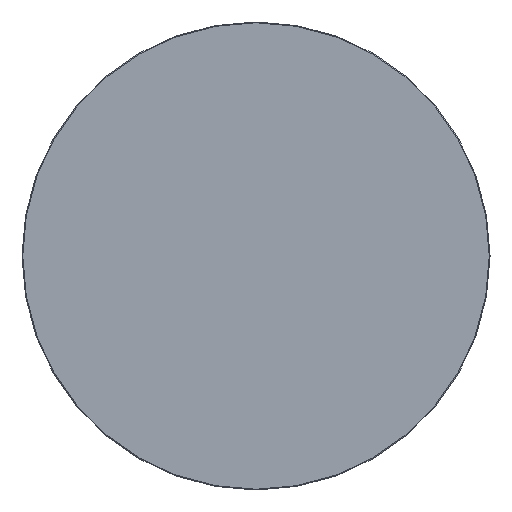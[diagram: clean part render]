
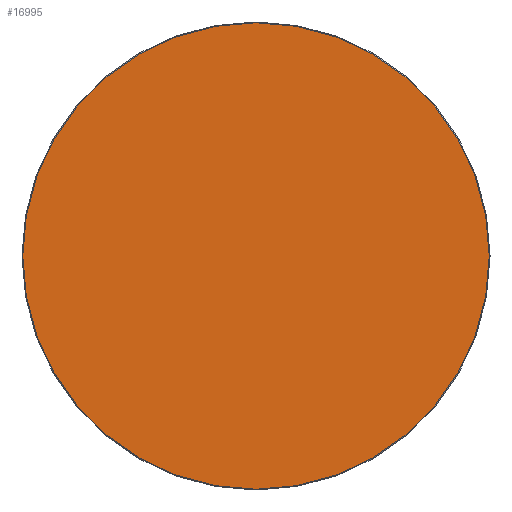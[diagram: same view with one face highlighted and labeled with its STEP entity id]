
A CAD part, top view. The second image highlights one B-rep face of the part: STEP entity #16995.
In plain terms, the highlighted planar face has unit normal (0, 0, 1).
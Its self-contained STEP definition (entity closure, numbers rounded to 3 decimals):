
#16920=CARTESIAN_POINT('',(0.,0.,20.));
#16921=DIRECTION('',(1.,0.,0.));
#16922=DIRECTION('',(0.,0.,1.));
#16923=AXIS2_PLACEMENT_3D('',#16920,#16922,#16921);
#16924=PLANE('',#16923);
#16925=CARTESIAN_POINT('',(-0.5,-448.5,20.));
#16926=VERTEX_POINT('',#16925);
#16927=CARTESIAN_POINT('',(0.5,-448.5,20.));
#16928=VERTEX_POINT('',#16927);
#16929=CARTESIAN_POINT('',(-0.5,-448.5,20.));
#16930=DIRECTION('',(1.,0.,0.));
#16931=VECTOR('',#16930,1.);
#16932=LINE('',#16929,#16931);
#16933=EDGE_CURVE('',#16926,#16928,#16932,.T.);
#16934=ORIENTED_EDGE('E105',*,*,#16933,.T.);
#16935=CARTESIAN_POINT('',(448.5,-0.5,20.));
#16936=VERTEX_POINT('',#16935);
#16937=CARTESIAN_POINT('',(0.5,-0.5,20.));
#16938=DIRECTION('',(0.,-1.,0.));
#16939=DIRECTION('',(0.,-0.,1.));
#16940=AXIS2_PLACEMENT_3D('',#16937,#16939,#16938);
#16941=CIRCLE('',#16940,448.);
#16942=EDGE_CURVE('',#16928,#16936,#16941,.T.);
#16943=ORIENTED_EDGE('E107',*,*,#16942,.T.);
#16944=CARTESIAN_POINT('',(448.5,0.5,20.));
#16945=VERTEX_POINT('',#16944);
#16946=CARTESIAN_POINT('',(448.5,-0.5,20.));
#16947=DIRECTION('',(0.,1.,0.));
#16948=VECTOR('',#16947,1.);
#16949=LINE('',#16946,#16948);
#16950=EDGE_CURVE('',#16936,#16945,#16949,.T.);
#16951=ORIENTED_EDGE('E109',*,*,#16950,.T.);
#16952=CARTESIAN_POINT('',(0.5,448.5,20.));
#16953=VERTEX_POINT('',#16952);
#16954=CARTESIAN_POINT('',(0.5,0.5,20.));
#16955=DIRECTION('',(1.,0.,0.));
#16956=DIRECTION('',(0.,0.,1.));
#16957=AXIS2_PLACEMENT_3D('',#16954,#16956,#16955);
#16958=CIRCLE('',#16957,448.);
#16959=EDGE_CURVE('',#16945,#16953,#16958,.T.);
#16960=ORIENTED_EDGE('E111',*,*,#16959,.T.);
#16961=CARTESIAN_POINT('',(-0.5,448.5,20.));
#16962=VERTEX_POINT('',#16961);
#16963=CARTESIAN_POINT('',(0.5,448.5,20.));
#16964=DIRECTION('',(-1.,0.,0.));
#16965=VECTOR('',#16964,1.);
#16966=LINE('',#16963,#16965);
#16967=EDGE_CURVE('',#16953,#16962,#16966,.T.);
#16968=ORIENTED_EDGE('E113',*,*,#16967,.T.);
#16969=CARTESIAN_POINT('',(-448.5,0.5,20.));
#16970=VERTEX_POINT('',#16969);
#16971=CARTESIAN_POINT('',(-0.5,0.5,20.));
#16972=DIRECTION('',(0.,1.,0.));
#16973=DIRECTION('',(0.,0.,1.));
#16974=AXIS2_PLACEMENT_3D('',#16971,#16973,#16972);
#16975=CIRCLE('',#16974,448.);
#16976=EDGE_CURVE('',#16962,#16970,#16975,.T.);
#16977=ORIENTED_EDGE('E115',*,*,#16976,.T.);
#16978=CARTESIAN_POINT('',(-448.5,-0.5,20.));
#16979=VERTEX_POINT('',#16978);
#16980=CARTESIAN_POINT('',(-448.5,0.5,20.));
#16981=DIRECTION('',(0.,-1.,0.));
#16982=VECTOR('',#16981,1.);
#16983=LINE('',#16980,#16982);
#16984=EDGE_CURVE('',#16970,#16979,#16983,.T.);
#16985=ORIENTED_EDGE('E117',*,*,#16984,.T.);
#16986=CARTESIAN_POINT('',(-0.5,-0.5,20.));
#16987=DIRECTION('',(-1.,0.,0.));
#16988=DIRECTION('',(0.,0.,1.));
#16989=AXIS2_PLACEMENT_3D('',#16986,#16988,#16987);
#16990=CIRCLE('',#16989,448.);
#16991=EDGE_CURVE('',#16979,#16926,#16990,.T.);
#16992=ORIENTED_EDGE('E119',*,*,#16991,.T.);
#16993=EDGE_LOOP('',(#16934,#16943,#16951,#16960,#16968,#16977,#16985,#16992));
#16994=FACE_OUTER_BOUND('',#16993,.T.);
#16995=ADVANCED_FACE('F2',(#16994),#16924,.T.);
